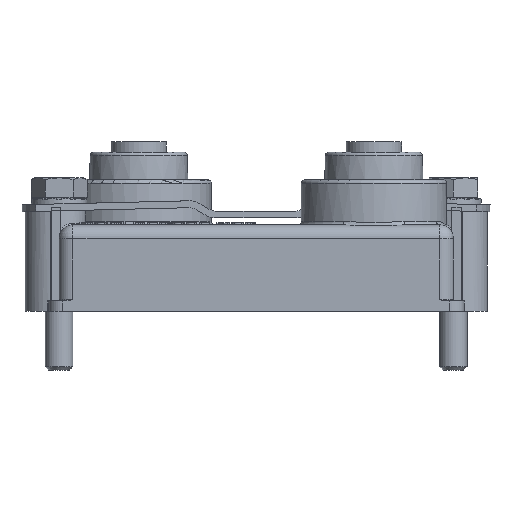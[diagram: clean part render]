
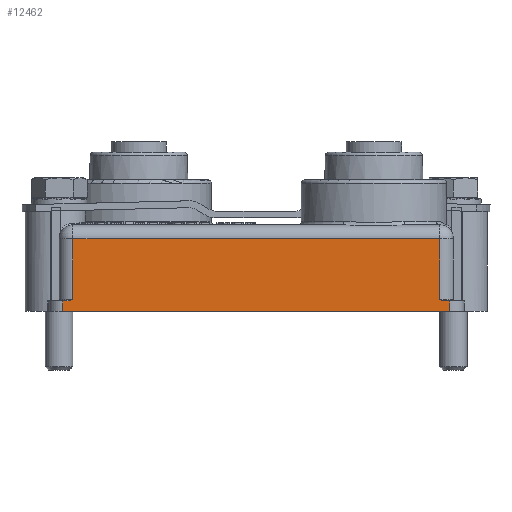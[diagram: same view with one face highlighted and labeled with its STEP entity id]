
A CAD part, left-side view. The second image highlights one B-rep face of the part: STEP entity #12462.
In plain terms, the highlighted planar face has unit normal (-1, 0, 0) as drawn and (0, -1, 0) by its records, which use the part's own axes.
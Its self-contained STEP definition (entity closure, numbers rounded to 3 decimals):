
#281=LINE('',#16773,#1082);
#534=LINE('',#18866,#1335);
#535=LINE('',#18869,#1336);
#536=LINE('',#18871,#1337);
#537=LINE('',#18878,#1338);
#538=LINE('',#18879,#1339);
#539=LINE('',#18886,#1340);
#540=LINE('',#18888,#1341);
#1082=VECTOR('',#13804,1000.);
#1335=VECTOR('',#14325,1000.);
#1336=VECTOR('',#14326,1000.);
#1337=VECTOR('',#14327,1000.);
#1338=VECTOR('',#14328,1000.);
#1339=VECTOR('',#14329,1000.);
#1340=VECTOR('',#14330,1000.);
#1341=VECTOR('',#14331,1000.);
#1966=B_SPLINE_CURVE_WITH_KNOTS('',3,(#18873,#18874,#18875,#18876),
 .UNSPECIFIED.,.F.,.F.,(4,4),(0.,0.001),
 .UNSPECIFIED.);
#1967=B_SPLINE_CURVE_WITH_KNOTS('',3,(#18881,#18882,#18883,#18884),
 .UNSPECIFIED.,.F.,.F.,(4,4),(0.,0.001),
 .UNSPECIFIED.);
#3226=ORIENTED_EDGE('',*,*,#5569,.T.);
#3227=ORIENTED_EDGE('',*,*,#5570,.T.);
#3228=ORIENTED_EDGE('',*,*,#5571,.T.);
#3229=ORIENTED_EDGE('',*,*,#5572,.T.);
#3230=ORIENTED_EDGE('',*,*,#5573,.T.);
#3231=ORIENTED_EDGE('',*,*,#5193,.T.);
#3232=ORIENTED_EDGE('',*,*,#5574,.F.);
#3233=ORIENTED_EDGE('',*,*,#5575,.F.);
#3234=ORIENTED_EDGE('',*,*,#5576,.F.);
#3235=ORIENTED_EDGE('',*,*,#5577,.F.);
#5193=EDGE_CURVE('',#6550,#6549,#281,.T.);
#5569=EDGE_CURVE('',#6749,#6750,#534,.T.);
#5570=EDGE_CURVE('',#6750,#6751,#535,.T.);
#5571=EDGE_CURVE('',#6751,#6752,#536,.T.);
#5572=EDGE_CURVE('',#6752,#6753,#1966,.T.);
#5573=EDGE_CURVE('',#6753,#6550,#537,.T.);
#5574=EDGE_CURVE('',#6754,#6549,#538,.T.);
#5575=EDGE_CURVE('',#6755,#6754,#1967,.T.);
#5576=EDGE_CURVE('',#6756,#6755,#539,.T.);
#5577=EDGE_CURVE('',#6749,#6756,#540,.T.);
#6549=VERTEX_POINT('',#16772);
#6550=VERTEX_POINT('',#16774);
#6749=VERTEX_POINT('',#18867);
#6750=VERTEX_POINT('',#18868);
#6751=VERTEX_POINT('',#18870);
#6752=VERTEX_POINT('',#18872);
#6753=VERTEX_POINT('',#18877);
#6754=VERTEX_POINT('',#18880);
#6755=VERTEX_POINT('',#18885);
#6756=VERTEX_POINT('',#18887);
#7766=EDGE_LOOP('',(#3226,#3227,#3228,#3229,#3230,#3231,#3232,#3233,#3234,
#3235));
#8383=FACE_BOUND('',#7766,.T.);
#8842=PLANE('',#13030);
#12462=ADVANCED_FACE('',(#8383),#8842,.T.);
#13030=AXIS2_PLACEMENT_3D('',#18865,#14323,#14324);
#13804=DIRECTION('',(-1.,0.,0.));
#14323=DIRECTION('',(0.,-1.,0.));
#14324=DIRECTION('',(0.,0.,-1.));
#14325=DIRECTION('',(1.,0.,0.));
#14326=DIRECTION('',(0.,0.,1.));
#14327=DIRECTION('',(-1.,0.,0.));
#14328=DIRECTION('',(0.,0.,1.));
#14329=DIRECTION('',(0.,0.,1.));
#14330=DIRECTION('',(1.,0.,0.));
#14331=DIRECTION('',(0.,0.,1.));
#16772=CARTESIAN_POINT('',(-26.5,-30.,10.5));
#16773=CARTESIAN_POINT('',(0.,-30.,10.5));
#16774=CARTESIAN_POINT('',(26.5,-30.,10.5));
#18865=CARTESIAN_POINT('',(0.,-30.,0.));
#18866=CARTESIAN_POINT('',(0.,-30.,0.));
#18867=CARTESIAN_POINT('',(-28.,-30.,0.));
#18868=CARTESIAN_POINT('',(28.,-30.,0.));
#18869=CARTESIAN_POINT('',(28.,-30.,1.5));
#18870=CARTESIAN_POINT('',(28.,-30.,1.5));
#18871=CARTESIAN_POINT('',(30.,-30.,1.5));
#18872=CARTESIAN_POINT('',(27.417,-30.,1.5));
#18873=CARTESIAN_POINT('',(27.417,-30.,1.5));
#18874=CARTESIAN_POINT('',(27.101,-30.,1.5));
#18875=CARTESIAN_POINT('',(26.798,-30.,1.606));
#18876=CARTESIAN_POINT('',(26.5,-30.,1.7));
#18877=CARTESIAN_POINT('',(26.5,-30.,1.7));
#18878=CARTESIAN_POINT('',(26.5,-30.,12.5));
#18879=CARTESIAN_POINT('',(-26.5,-30.,12.5));
#18880=CARTESIAN_POINT('',(-26.5,-30.,1.7));
#18881=CARTESIAN_POINT('',(-27.417,-30.,1.5));
#18882=CARTESIAN_POINT('',(-27.101,-30.,1.5));
#18883=CARTESIAN_POINT('',(-26.798,-30.,1.606));
#18884=CARTESIAN_POINT('',(-26.5,-30.,1.7));
#18885=CARTESIAN_POINT('',(-27.417,-30.,1.5));
#18886=CARTESIAN_POINT('',(-30.,-30.,1.5));
#18887=CARTESIAN_POINT('',(-28.,-30.,1.5));
#18888=CARTESIAN_POINT('',(-28.,-30.,1.5));
